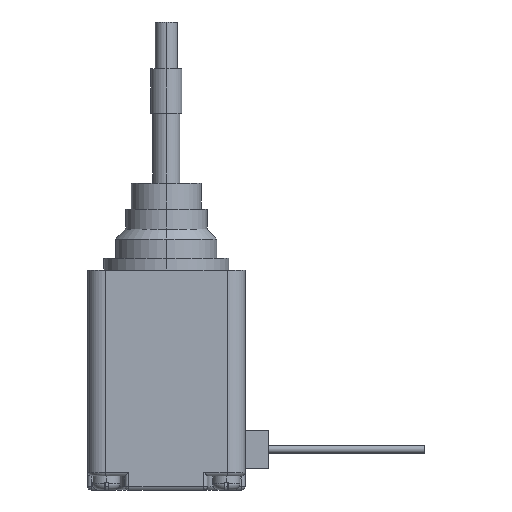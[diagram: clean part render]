
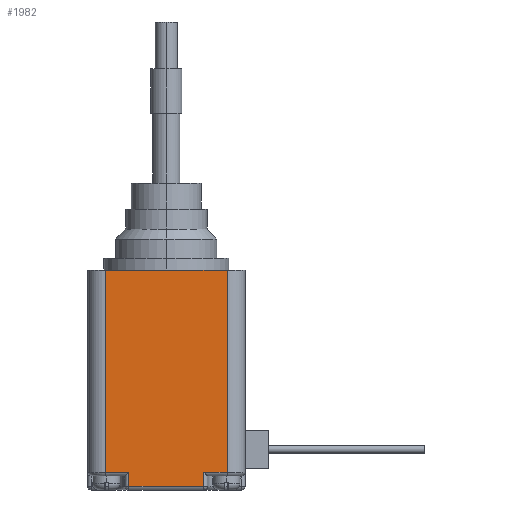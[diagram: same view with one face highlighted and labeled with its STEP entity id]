
A CAD part, left-side view. The second image highlights one B-rep face of the part: STEP entity #1982.
In plain terms, the highlighted planar face has unit normal (-1, 0, 0).
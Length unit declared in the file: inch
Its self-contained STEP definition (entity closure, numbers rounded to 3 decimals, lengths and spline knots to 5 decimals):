
#118 = CARTESIAN_POINT ( 'NONE',  ( -0.39764, -0.18898, -1.09055 ) ) ;
#199 = ORIENTED_EDGE ( 'NONE', *, *, #5070, .F. ) ;
#391 = VECTOR ( 'NONE', #2512, 39.37008 ) ;
#492 = VERTEX_POINT ( 'NONE', #6356 ) ;
#548 = EDGE_CURVE ( 'NONE', #6298, #8709, #1789, .T. ) ;
#634 = PLANE ( 'NONE',  #3986 ) ;
#709 = CARTESIAN_POINT ( 'NONE',  ( -0.39764, -0.18898, -1.01969 ) ) ;
#730 = VERTEX_POINT ( 'NONE', #3138 ) ;
#931 = EDGE_CURVE ( 'NONE', #4657, #730, #6746, .T. ) ;
#1082 = LINE ( 'NONE', #4130, #9819 ) ;
#1083 = EDGE_CURVE ( 'NONE', #492, #6092, #8959, .T. ) ;
#1197 = VERTEX_POINT ( 'NONE', #3853 ) ;
#1232 = CARTESIAN_POINT ( 'NONE',  ( -0.39764, -0.18898, -1.09055 ) ) ;
#1284 = VECTOR ( 'NONE', #5465, 39.37008 ) ;
#1539 = EDGE_CURVE ( 'NONE', #3308, #4657, #6941, .T. ) ;
#1789 = LINE ( 'NONE', #4822, #4491 ) ;
#1982 = ADVANCED_FACE ( 'NONE', ( #6162 ), #634, .T. ) ;
#2069 = DIRECTION ( 'NONE',  ( 0., -1., 0. ) ) ;
#2208 = DIRECTION ( 'NONE',  ( 0., -1., 0. ) ) ;
#2247 = ORIENTED_EDGE ( 'NONE', *, *, #931, .T. ) ;
#2409 = CARTESIAN_POINT ( 'NONE',  ( -0.39764, 0.18898, -1.09055 ) ) ;
#2512 = DIRECTION ( 'NONE',  ( 0., 0., -1. ) ) ;
#3019 = ORIENTED_EDGE ( 'NONE', *, *, #1083, .T. ) ;
#3138 = CARTESIAN_POINT ( 'NONE',  ( -0.39764, 0.18898, -1.09055 ) ) ;
#3308 = VERTEX_POINT ( 'NONE', #4964 ) ;
#3518 = VECTOR ( 'NONE', #5800, 39.37008 ) ;
#3833 = DIRECTION ( 'NONE',  ( 0., 0., 1. ) ) ;
#3852 = CARTESIAN_POINT ( 'NONE',  ( -0.39764, 0.20866, -1.01969 ) ) ;
#3853 = CARTESIAN_POINT ( 'NONE',  ( -0.39764, 0.30709, 0. ) ) ;
#3986 = AXIS2_PLACEMENT_3D ( 'NONE', #6816, #5516, #3833 ) ;
#4130 = CARTESIAN_POINT ( 'NONE',  ( -0.39764, 0.39764, 0. ) ) ;
#4157 = ORIENTED_EDGE ( 'NONE', *, *, #548, .T. ) ;
#4491 = VECTOR ( 'NONE', #7940, 39.37008 ) ;
#4657 = VERTEX_POINT ( 'NONE', #7688 ) ;
#4822 = CARTESIAN_POINT ( 'NONE',  ( -0.39764, -0.18898, -1.03937 ) ) ;
#4964 = CARTESIAN_POINT ( 'NONE',  ( -0.39764, 0.30709, -1.01969 ) ) ;
#5070 = EDGE_CURVE ( 'NONE', #1197, #6092, #1082, .T. ) ;
#5140 = EDGE_CURVE ( 'NONE', #730, #6298, #8942, .T. ) ;
#5465 = DIRECTION ( 'NONE',  ( 0., 0., -1. ) ) ;
#5516 = DIRECTION ( 'NONE',  ( -1., 0., 0. ) ) ;
#5800 = DIRECTION ( 'NONE',  ( 0., -1., 0. ) ) ;
#6092 = VERTEX_POINT ( 'NONE', #8172 ) ;
#6162 = FACE_OUTER_BOUND ( 'NONE', #8675, .T. ) ;
#6210 = LINE ( 'NONE', #7880, #391 ) ;
#6298 = VERTEX_POINT ( 'NONE', #118 ) ;
#6356 = CARTESIAN_POINT ( 'NONE',  ( -0.39764, -0.30709, -1.01969 ) ) ;
#6378 = EDGE_CURVE ( 'NONE', #8709, #492, #8194, .T. ) ;
#6676 = ORIENTED_EDGE ( 'NONE', *, *, #5140, .T. ) ;
#6746 = LINE ( 'NONE', #2409, #1284 ) ;
#6816 = CARTESIAN_POINT ( 'NONE',  ( -0.39764, 0.39764, -1.11024 ) ) ;
#6941 = LINE ( 'NONE', #3852, #9029 ) ;
#7373 = CARTESIAN_POINT ( 'NONE',  ( -0.39764, 0.39764, -1.01969 ) ) ;
#7507 = EDGE_CURVE ( 'NONE', #1197, #3308, #6210, .T. ) ;
#7688 = CARTESIAN_POINT ( 'NONE',  ( -0.39764, 0.18898, -1.01969 ) ) ;
#7880 = CARTESIAN_POINT ( 'NONE',  ( -0.39764, 0.30709, -1.11024 ) ) ;
#7940 = DIRECTION ( 'NONE',  ( 0., 0., 1. ) ) ;
#8172 = CARTESIAN_POINT ( 'NONE',  ( -0.39764, -0.30709, 0. ) ) ;
#8194 = LINE ( 'NONE', #7373, #9728 ) ;
#8675 = EDGE_LOOP ( 'NONE', ( #4157, #9639, #3019, #199, #9200, #9558, #2247, #6676 ) ) ;
#8709 = VERTEX_POINT ( 'NONE', #709 ) ;
#8814 = DIRECTION ( 'NONE',  ( 0., 0., 1. ) ) ;
#8834 = DIRECTION ( 'NONE',  ( 0., -1., 0. ) ) ;
#8942 = LINE ( 'NONE', #1232, #3518 ) ;
#8959 = LINE ( 'NONE', #9619, #9172 ) ;
#9029 = VECTOR ( 'NONE', #2208, 39.37008 ) ;
#9172 = VECTOR ( 'NONE', #8814, 39.37008 ) ;
#9200 = ORIENTED_EDGE ( 'NONE', *, *, #7507, .T. ) ;
#9558 = ORIENTED_EDGE ( 'NONE', *, *, #1539, .T. ) ;
#9619 = CARTESIAN_POINT ( 'NONE',  ( -0.39764, -0.30709, -1.11024 ) ) ;
#9639 = ORIENTED_EDGE ( 'NONE', *, *, #6378, .T. ) ;
#9728 = VECTOR ( 'NONE', #2069, 39.37008 ) ;
#9819 = VECTOR ( 'NONE', #8834, 39.37008 ) ;
